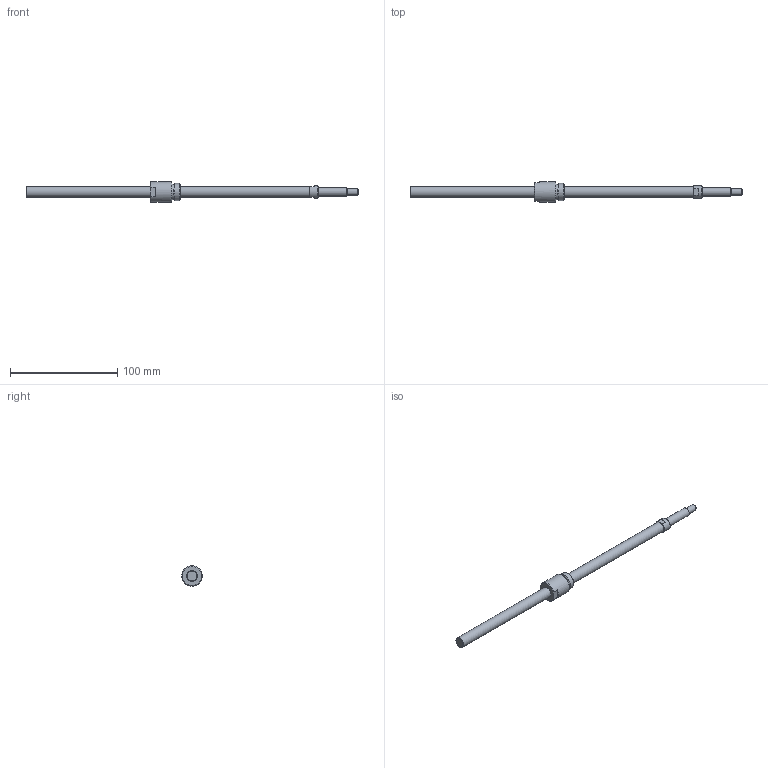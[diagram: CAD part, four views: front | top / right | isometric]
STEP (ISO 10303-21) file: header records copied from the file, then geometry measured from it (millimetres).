
FILE_DESCRIPTION(/* description */ ('STEP AP214'),/* implementation_level */ '2;1');
FILE_NAME(/* name */ 'NSG1004-260R310C5A0X(116)',/* time_stamp */ '2026-08-20T15:49:34+02:00',/* author */ ('License CC BY-ND 4.0'),/* organization */ ('CADENAS'),/* preprocessor_version */ 'ST-DEVELOPER v20',/* originating_system */ 'PARTsolutions',/* authorisation */ ' ');
FILE_SCHEMA (('AUTOMOTIVE_DESIGN {1 0 10303 214 3 1 1}'));
Length unit declared in the file: millimetre
Products named in the file (3): NSG1004-260R310C5A0X(116); NSG1004-260R310C3A_shaft; NSG1004_nut
Assembly tree (2 placements, depth 2):
  NSG1004-260R310C5A0X(116)
    NSG1004-260R310C3A_shaft
    NSG1004_nut
Bounding box: 310 x 19 x 19 mm (x, y, z)
Volume: 28156.8 mm3; surface area: 12528.1 mm2
Topology: 2 solids, 2 shells, 35 faces, 72 edges, 44 vertices
Faces by surface type: plane 17, cone 9, cylinder 8, torus 1
Full cylindrical faces by diameter (mm): 6 x1, 8 x1, 10 x2, 11.5 x1, 14.4 x1, 16 x1, 19 x1
Entity records: 907 total; most frequent: DIRECTION 158, CARTESIAN_POINT 146, ORIENTED_EDGE 108, AXIS2_PLACEMENT_3D 70, EDGE_LOOP 56, FACE_BOUND 56, EDGE_CURVE 54, VERTEX_POINT 42
